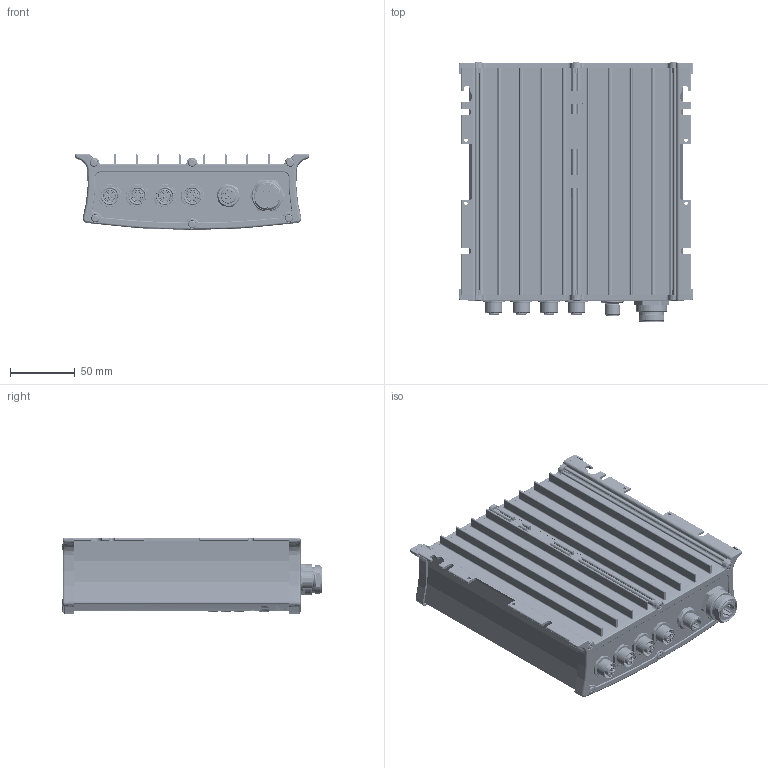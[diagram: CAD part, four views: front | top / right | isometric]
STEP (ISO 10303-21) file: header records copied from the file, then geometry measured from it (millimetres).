
FILE_DESCRIPTION (( 'STEP AP214' ), '1' );
FILE_NAME ('451.38.01.STEP', '2024-07-29T13:03:59', ( '' ), ( '' ), 'SwSTEP 2.0', 'SolidWorks 2024', '' );
FILE_SCHEMA (( 'AUTOMOTIVE_DESIGN' ));
Length unit declared in the file: millimetre
Products named in the file (1): 451.38.01
Bounding box: 180.63 x 199.55 x 58.73 mm (x, y, z)
Volume: 269234.4 mm3; surface area: 352704 mm2
Topology: 58 solids, 58 shells, 4224 faces, 12073 edges, 8300 vertices
Faces by surface type: plane 1705, cylinder 1222, torus 465, bspline 446, cone 376, sphere 10
Full cylindrical faces by diameter (mm): 0.56 x6, 0.95 x20, 1 x5, 1.1 x20, 1.411 x1, 1.457 x1, 1.486 x1, 1.527 x1, 1.6 x20, 2.4 x3, 2.7 x4, 3 x12, 3.6 x12, 5 x3, 6 x24, 8.2 x4, 8.3 x1, 10.5 x1, 10.65 x1, 10.917 x4, 11 x4, 12 x1, 12.15 x1, 12.2 x4, 13 x4, 13.4 x1, 13.8 x3, 15.4 x1, 17.8 x1, 18.5 x1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
Entity records: 227992 total; most frequent: CARTESIAN_POINT 76343, ORIENTED_EDGE 23228, DIRECTION 19656, EDGE_CURVE 11614, VERTEX_POINT 8180, AXIS2_PLACEMENT_3D 7519, EDGE_LOOP 5026, VECTOR 4618
